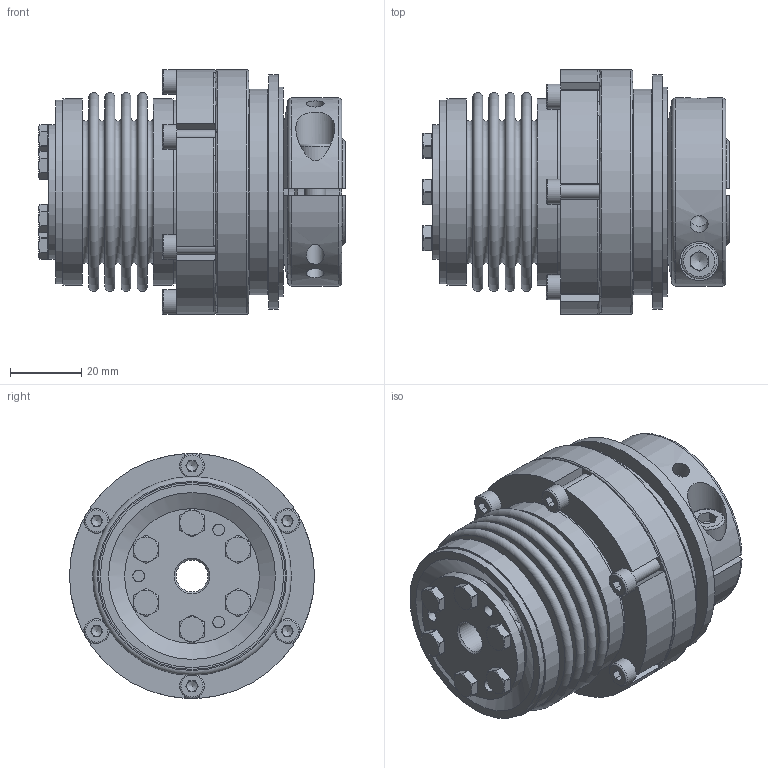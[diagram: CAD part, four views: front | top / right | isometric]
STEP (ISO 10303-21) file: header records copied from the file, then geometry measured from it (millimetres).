
FILE_DESCRIPTION( ( 'Unknown' ), '1' );
FILE_NAME( 'F:/JAKOB-STEP+IGES-Dateien/STEP-Dateien/SKB-KS/SKB-KS 30.stp', 'Unknown', ( 'Unknown' ), ( 'Unknown' ), 'PSStep 10.1', 'Unknown', ' ' );
FILE_SCHEMA( ( 'AUTOMOTIVE_DESIGN { 1 0 10303 214 1 1 1 1 }' ) );
Length unit declared in the file: millimetre
Products named in the file (1): 24817810
Bounding box: 86.3 x 69 x 69 mm (x, y, z)
Volume: 154092.4 mm3; surface area: 82655.2 mm2
Topology: 1 solids, 4 shells, 615 faces, 1595 edges, 1015 vertices
Faces by surface type: plane 289, cylinder 159, torus 82, cone 37, bspline 31, sphere 12, revolution 5
Full cylindrical faces by diameter (mm): 2 x2, 3.3 x17, 4 x12, 4.3 x6, 5 x4, 5.9 x6, 6 x1, 6.5 x1, 7 x6, 9 x1, 10 x1, 11 x1, 12 x1, 22.5 x1, 23.5 x1, 28.6 x1, 29.8 x1, 30 x2, 35 x1, 35.1 x1, 36 x2, 38 x2, 38.2 x2, 38.893 x1, 39.293 x1, 42 x1, 42.114 x1, 43 x1, 47.1 x3, 51.6 x2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
Entity records: 24154 total; most frequent: CARTESIAN_POINT 5442, DIRECTION 2883, ORIENTED_EDGE 2632, EDGE_CURVE 1316, AXIS2_PLACEMENT_3D 1202, VERTEX_POINT 921, EDGE_LOOP 898, FACE_OUTER_BOUND 743
